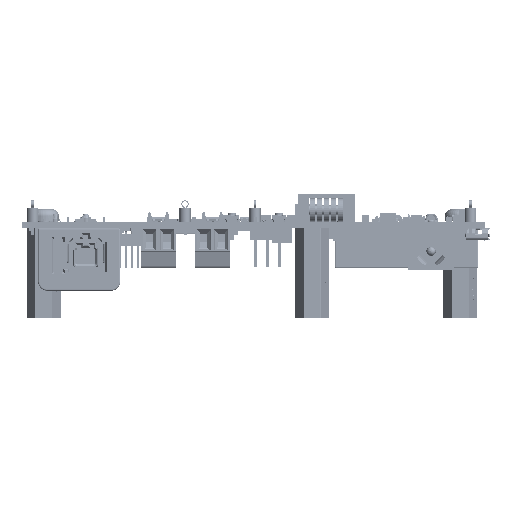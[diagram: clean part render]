
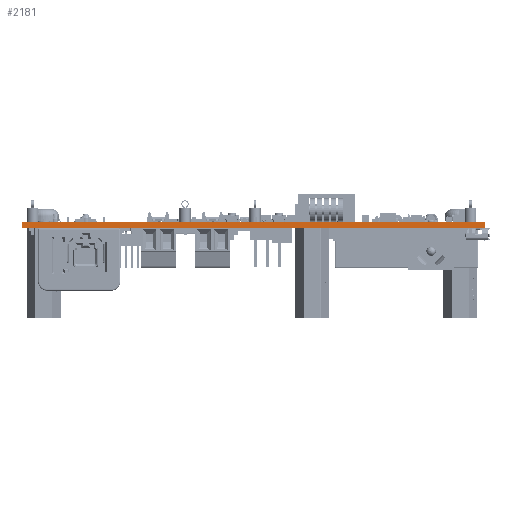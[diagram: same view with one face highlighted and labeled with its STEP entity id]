
A CAD part, left-side view. The second image highlights one B-rep face of the part: STEP entity #2181.
In plain terms, the highlighted planar face has unit normal (-1, 0, 0).
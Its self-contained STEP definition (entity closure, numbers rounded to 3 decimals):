
#2181 = ADVANCED_FACE('',(#2182),#2216,.T.);
#2182 = FACE_BOUND('',#2183,.T.);
#2183 = EDGE_LOOP('',(#2184,#2194,#2202,#2210));
#2184 = ORIENTED_EDGE('',*,*,#2185,.T.);
#2185 = EDGE_CURVE('',#2186,#2188,#2190,.T.);
#2186 = VERTEX_POINT('',#2187);
#2187 = CARTESIAN_POINT('',(0.,0.,0.));
#2188 = VERTEX_POINT('',#2189);
#2189 = CARTESIAN_POINT('',(0.,0.,1.443));
#2190 = LINE('',#2191,#2192);
#2191 = CARTESIAN_POINT('',(0.,0.,0.));
#2192 = VECTOR('',#2193,1.);
#2193 = DIRECTION('',(0.,0.,1.));
#2194 = ORIENTED_EDGE('',*,*,#2195,.T.);
#2195 = EDGE_CURVE('',#2188,#2196,#2198,.T.);
#2196 = VERTEX_POINT('',#2197);
#2197 = CARTESIAN_POINT('',(0.,100.,1.443));
#2198 = LINE('',#2199,#2200);
#2199 = CARTESIAN_POINT('',(0.,0.,1.443));
#2200 = VECTOR('',#2201,1.);
#2201 = DIRECTION('',(0.,1.,0.));
#2202 = ORIENTED_EDGE('',*,*,#2203,.F.);
#2203 = EDGE_CURVE('',#2204,#2196,#2206,.T.);
#2204 = VERTEX_POINT('',#2205);
#2205 = CARTESIAN_POINT('',(0.,100.,0.));
#2206 = LINE('',#2207,#2208);
#2207 = CARTESIAN_POINT('',(0.,100.,0.));
#2208 = VECTOR('',#2209,1.);
#2209 = DIRECTION('',(0.,0.,1.));
#2210 = ORIENTED_EDGE('',*,*,#2211,.F.);
#2211 = EDGE_CURVE('',#2186,#2204,#2212,.T.);
#2212 = LINE('',#2213,#2214);
#2213 = CARTESIAN_POINT('',(0.,0.,0.));
#2214 = VECTOR('',#2215,1.);
#2215 = DIRECTION('',(0.,1.,0.));
#2216 = PLANE('',#2217);
#2217 = AXIS2_PLACEMENT_3D('',#2218,#2219,#2220);
#2218 = CARTESIAN_POINT('',(0.,0.,0.));
#2219 = DIRECTION('',(-1.,0.,0.));
#2220 = DIRECTION('',(0.,1.,0.));
